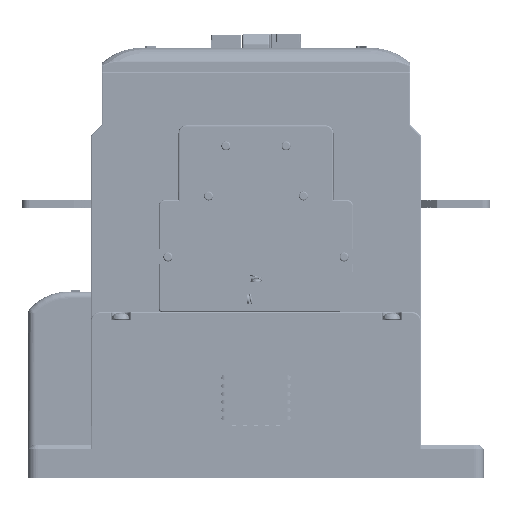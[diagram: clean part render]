
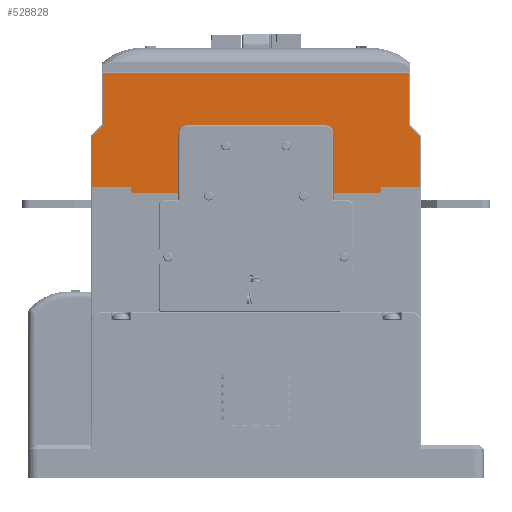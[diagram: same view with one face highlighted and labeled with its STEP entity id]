
A CAD part, left-side view. The second image highlights one B-rep face of the part: STEP entity #528828.
In plain terms, the highlighted planar face has unit normal (-1, 0, 0).
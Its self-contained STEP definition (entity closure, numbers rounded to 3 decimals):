
#506145=DIRECTION('',(0.,-1.,0.));
#506146=VECTOR('',#506145,14.25);
#506147=CARTESIAN_POINT('',(-51.4,60.5,0.));
#506148=LINE('',#506147,#506146);
#506177=DIRECTION('',(0.,-1.,0.));
#506178=VECTOR('',#506177,14.25);
#506179=CARTESIAN_POINT('',(-51.4,-46.25,0.));
#506180=LINE('',#506179,#506178);
#508132=DIRECTION('',(0.,0.,1.));
#508133=VECTOR('',#508132,18.172);
#508134=CARTESIAN_POINT('',(-51.4,-60.5,0.));
#508135=LINE('',#508134,#508133);
#508136=DIRECTION('',(0.,0.,-1.));
#508137=VECTOR('',#508136,1.);
#508138=CARTESIAN_POINT('',(-51.4,-46.25,0.));
#508139=LINE('',#508138,#508137);
#508140=CARTESIAN_POINT('',(-51.4,-45.25,-1.));
#508141=DIRECTION('',(-1.,0.,0.));
#508142=DIRECTION('',(0.,0.,-1.));
#508143=AXIS2_PLACEMENT_3D('',#508140,#508141,#508142);
#508145=CARTESIAN_POINT('',(-51.4,45.25,-1.));
#508146=DIRECTION('',(-1.,0.,0.));
#508147=DIRECTION('',(0.,1.,0.));
#508148=AXIS2_PLACEMENT_3D('',#508145,#508146,#508147);
#508150=DIRECTION('',(0.,0.,-1.));
#508151=VECTOR('',#508150,18.172);
#508152=CARTESIAN_POINT('',(-51.4,60.5,18.172));
#508153=LINE('',#508152,#508151);
#508154=CARTESIAN_POINT('',(-51.4,59.,18.172));
#508155=DIRECTION('',(-1.,0.,0.));
#508156=DIRECTION('',(0.,0.707,0.707));
#508157=AXIS2_PLACEMENT_3D('',#508154,#508155,#508156);
#508159=DIRECTION('',(0.,0.707,-0.707));
#508160=VECTOR('',#508159,4.621);
#508161=CARTESIAN_POINT('',(-51.4,56.793,22.5));
#508162=LINE('',#508161,#508160);
#508163=CARTESIAN_POINT('',(-51.4,57.5,23.207));
#508164=DIRECTION('',(1.,0.,0.));
#508165=DIRECTION('',(0.,-1.,0.));
#508166=AXIS2_PLACEMENT_3D('',#508163,#508164,#508165);
#508168=DIRECTION('',(0.,0.,-1.));
#508169=VECTOR('',#508168,18.793);
#508170=CARTESIAN_POINT('',(-51.4,56.5,42.));
#508171=LINE('',#508170,#508169);
#508172=DIRECTION('',(0.,1.,0.));
#508173=VECTOR('',#508172,113.);
#508174=CARTESIAN_POINT('',(-51.4,-56.5,42.));
#508175=LINE('',#508174,#508173);
#508176=DIRECTION('',(0.,0.,1.));
#508177=VECTOR('',#508176,18.793);
#508178=CARTESIAN_POINT('',(-51.4,-56.5,23.207));
#508179=LINE('',#508178,#508177);
#508180=CARTESIAN_POINT('',(-51.4,-57.5,23.207));
#508181=DIRECTION('',(1.,0.,0.));
#508182=DIRECTION('',(0.,0.707,-0.707));
#508183=AXIS2_PLACEMENT_3D('',#508180,#508181,#508182);
#508185=DIRECTION('',(0.,0.707,0.707));
#508186=VECTOR('',#508185,4.621);
#508187=CARTESIAN_POINT('',(-51.4,-60.061,19.232));
#508188=LINE('',#508187,#508186);
#508189=CARTESIAN_POINT('',(-51.4,-59.,18.172));
#508190=DIRECTION('',(-1.,0.,0.));
#508191=DIRECTION('',(0.,-1.,0.));
#508192=AXIS2_PLACEMENT_3D('',#508189,#508190,#508191);
#514406=DIRECTION('',(0.,0.,-1.));
#514407=VECTOR('',#514406,1.);
#514408=CARTESIAN_POINT('',(-51.4,46.25,0.));
#514409=LINE('',#514408,#514407);
#514430=DIRECTION('',(0.,1.,0.));
#514431=VECTOR('',#514430,90.5);
#514432=CARTESIAN_POINT('',(-51.4,-45.25,-2.));
#514433=LINE('',#514432,#514431);
#517971=CARTESIAN_POINT('',(-51.4,46.25,0.));
#517973=VERTEX_POINT('',#517971);
#517975=CARTESIAN_POINT('',(-51.4,-46.25,0.));
#517977=VERTEX_POINT('',#517975);
#518923=CARTESIAN_POINT('',(-51.4,46.25,-1.));
#518925=VERTEX_POINT('',#518923);
#518927=CARTESIAN_POINT('',(-51.4,45.25,-2.));
#518928=VERTEX_POINT('',#518927);
#518931=CARTESIAN_POINT('',(-51.4,-45.25,-2.));
#518932=CARTESIAN_POINT('',(-51.4,-46.25,-1.));
#518933=VERTEX_POINT('',#518931);
#518934=VERTEX_POINT('',#518932);
#519588=CARTESIAN_POINT('',(-51.4,-60.5,0.));
#519590=VERTEX_POINT('',#519588);
#519591=CARTESIAN_POINT('',(-51.4,-60.5,18.172));
#519592=VERTEX_POINT('',#519591);
#519595=CARTESIAN_POINT('',(-51.4,-60.061,19.232));
#519596=CARTESIAN_POINT('',(-51.4,-56.793,22.5));
#519597=VERTEX_POINT('',#519595);
#519598=VERTEX_POINT('',#519596);
#519603=CARTESIAN_POINT('',(-51.4,-56.5,23.207));
#519604=VERTEX_POINT('',#519603);
#519609=CARTESIAN_POINT('',(-51.4,-56.5,42.));
#519610=VERTEX_POINT('',#519609);
#519615=CARTESIAN_POINT('',(-51.4,56.793,22.5));
#519616=CARTESIAN_POINT('',(-51.4,60.061,19.232));
#519617=VERTEX_POINT('',#519615);
#519618=VERTEX_POINT('',#519616);
#519619=CARTESIAN_POINT('',(-51.4,56.5,23.207));
#519620=VERTEX_POINT('',#519619);
#519623=CARTESIAN_POINT('',(-51.4,56.5,42.));
#519624=VERTEX_POINT('',#519623);
#519627=CARTESIAN_POINT('',(-51.4,60.5,0.));
#519629=VERTEX_POINT('',#519627);
#519633=CARTESIAN_POINT('',(-51.4,60.5,18.172));
#519634=VERTEX_POINT('',#519633);
#528788=CARTESIAN_POINT('',(-51.4,56.,0.));
#528789=DIRECTION('',(-1.,0.,0.));
#528790=DIRECTION('',(0.,-1.,0.));
#528791=AXIS2_PLACEMENT_3D('',#528788,#528789,#528790);
#528792=PLANE('',#528791);
#528793=ORIENTED_EDGE('',*,*,#528780,.F.);
#528794=ORIENTED_EDGE('',*,*,#526515,.F.);
#528796=ORIENTED_EDGE('',*,*,#528795,.T.);
#528798=ORIENTED_EDGE('',*,*,#528797,.F.);
#528800=ORIENTED_EDGE('',*,*,#528799,.T.);
#528802=ORIENTED_EDGE('',*,*,#528801,.F.);
#528804=ORIENTED_EDGE('',*,*,#528803,.F.);
#528805=ORIENTED_EDGE('',*,*,#526483,.F.);
#528807=ORIENTED_EDGE('',*,*,#528806,.F.);
#528809=ORIENTED_EDGE('',*,*,#528808,.F.);
#528811=ORIENTED_EDGE('',*,*,#528810,.F.);
#528813=ORIENTED_EDGE('',*,*,#528812,.F.);
#528815=ORIENTED_EDGE('',*,*,#528814,.F.);
#528817=ORIENTED_EDGE('',*,*,#528816,.F.);
#528819=ORIENTED_EDGE('',*,*,#528818,.F.);
#528821=ORIENTED_EDGE('',*,*,#528820,.F.);
#528823=ORIENTED_EDGE('',*,*,#528822,.F.);
#528825=ORIENTED_EDGE('',*,*,#528824,.F.);
#528826=EDGE_LOOP('',(#528793,#528794,#528796,#528798,#528800,#528802,#528804,
#528805,#528807,#528809,#528811,#528813,#528815,#528817,#528819,#528821,#528823,
#528825));
#528827=FACE_OUTER_BOUND('',#528826,.F.);
#528828=ADVANCED_FACE('',(#528827),#528792,.T.);
#508144=CIRCLE('',#508143,1.);
#508149=CIRCLE('',#508148,1.);
#508158=CIRCLE('',#508157,1.5);
#508167=CIRCLE('',#508166,1.);
#508184=CIRCLE('',#508183,1.);
#508193=CIRCLE('',#508192,1.5);
#526483=EDGE_CURVE('',#519629,#517973,#506148,.T.);
#526515=EDGE_CURVE('',#517977,#519590,#506180,.T.);
#528780=EDGE_CURVE('',#519590,#519592,#508135,.T.);
#528795=EDGE_CURVE('',#517977,#518934,#508139,.T.);
#528797=EDGE_CURVE('',#518933,#518934,#508144,.T.);
#528799=EDGE_CURVE('',#518933,#518928,#514433,.T.);
#528801=EDGE_CURVE('',#518925,#518928,#508149,.T.);
#528803=EDGE_CURVE('',#517973,#518925,#514409,.T.);
#528806=EDGE_CURVE('',#519634,#519629,#508153,.T.);
#528808=EDGE_CURVE('',#519618,#519634,#508158,.T.);
#528810=EDGE_CURVE('',#519617,#519618,#508162,.T.);
#528812=EDGE_CURVE('',#519620,#519617,#508167,.T.);
#528814=EDGE_CURVE('',#519624,#519620,#508171,.T.);
#528816=EDGE_CURVE('',#519610,#519624,#508175,.T.);
#528818=EDGE_CURVE('',#519604,#519610,#508179,.T.);
#528820=EDGE_CURVE('',#519598,#519604,#508184,.T.);
#528822=EDGE_CURVE('',#519597,#519598,#508188,.T.);
#528824=EDGE_CURVE('',#519592,#519597,#508193,.T.);
